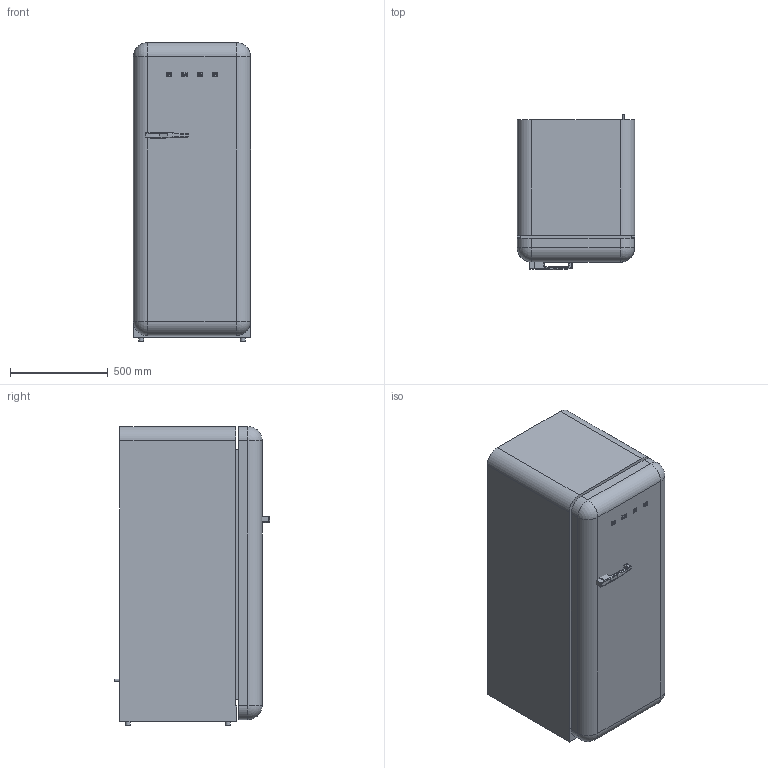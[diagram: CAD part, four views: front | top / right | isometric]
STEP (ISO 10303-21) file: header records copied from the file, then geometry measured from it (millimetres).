
FILE_DESCRIPTION(/* description */ (''),/* implementation_level */ '2;1');
FILE_NAME(/* name */ 'FAB28RCR5.stp',/* time_stamp */ '2021-06-03T13:37:32+02:00',/* author */ (''),/* organization */ (''),/* preprocessor_version */ 'ST-DEVELOPER v16',/* originating_system */ 'SIEMENS PLM Software NX 11.0',/* authorisation */ '');
FILE_SCHEMA (('AUTOMOTIVE_DESIGN { 1 0 10303 214 3 1 1 1 }'));
Length unit declared in the file: millimetre
Products named in the file (1): mart185C4BD948rc
Bounding box: 601 x 798 x 1530 mm (x, y, z)
Volume: 651016007.2 mm3; surface area: 5066243.9 mm2
Topology: 6 solids, 6 shells, 317 faces, 760 edges, 465 vertices
Faces by surface type: plane 121, cylinder 114, torus 40, cone 21, bspline 13, sphere 8
Full cylindrical faces by diameter (mm): 1.697 x40, 10 x1, 25 x4
Entity records: 9419 total; most frequent: CARTESIAN_POINT 2246, DIRECTION 1543, ORIENTED_EDGE 1338, EDGE_CURVE 669, AXIS2_PLACEMENT_3D 596, VERTEX_POINT 465, EDGE_LOOP 418, LINE 351
